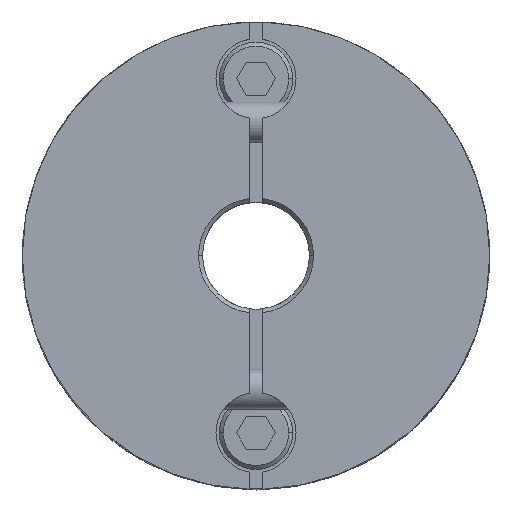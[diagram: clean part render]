
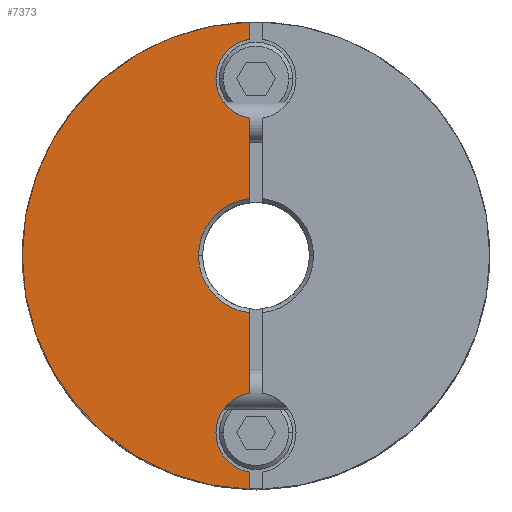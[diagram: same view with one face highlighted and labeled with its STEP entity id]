
A CAD part, top view. The second image highlights one B-rep face of the part: STEP entity #7373.
In plain terms, the highlighted planar face has unit normal (0, 0, 1).
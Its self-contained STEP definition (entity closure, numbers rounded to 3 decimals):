
#751=CARTESIAN_POINT('',(-4.3,0.,13.5));
#752=VERTEX_POINT('',#751);
#759=CARTESIAN_POINT('',(-0.5,-4.271,13.5));
#760=VERTEX_POINT('',#759);
#761=CARTESIAN_POINT('',(0.0,0.,13.5));
#762=DIRECTION('',(0.0,0.0,1.0));
#763=DIRECTION('',(1.0,0.0,0.0));
#764=AXIS2_PLACEMENT_3D('',#761,#762,#763);
#765=CIRCLE('',#764,4.3);
#766=EDGE_CURVE('',#752,#760,#765,.T.);
#831=CARTESIAN_POINT('',(-17.5,0.,13.5));
#832=VERTEX_POINT('',#831);
#916=CARTESIAN_POINT('',(-0.5,-17.493,13.5));
#917=VERTEX_POINT('',#916);
#924=CARTESIAN_POINT('',(0.0,0.,13.5));
#925=DIRECTION('',(0.0,0.0,-1.0));
#926=DIRECTION('',(-1.0,0.0,0.0));
#927=AXIS2_PLACEMENT_3D('',#924,#925,#926);
#928=CIRCLE('',#927,17.5);
#929=EDGE_CURVE('',#917,#832,#928,.T.);
#1353=CARTESIAN_POINT('',(-3.,-13.25,13.5));
#1354=VERTEX_POINT('',#1353);
#1363=CARTESIAN_POINT('',(-0.5,-16.208,13.5));
#1364=VERTEX_POINT('',#1363);
#1365=CARTESIAN_POINT('',(0.,-13.25,13.5));
#1366=DIRECTION('',(0.0,0.0,-1.0));
#1367=DIRECTION('',(-1.0,0.0,0.0));
#1368=AXIS2_PLACEMENT_3D('',#1365,#1366,#1367);
#1369=CIRCLE('',#1368,3.0);
#1370=EDGE_CURVE('',#1364,#1354,#1369,.T.);
#1585=CARTESIAN_POINT('',(-3.,13.25,13.5));
#1586=VERTEX_POINT('',#1585);
#1595=CARTESIAN_POINT('',(-0.5,10.292,13.5));
#1596=VERTEX_POINT('',#1595);
#1597=CARTESIAN_POINT('',(0.,13.25,13.5));
#1598=DIRECTION('',(0.0,0.0,-1.0));
#1599=DIRECTION('',(-1.0,0.0,0.0));
#1600=AXIS2_PLACEMENT_3D('',#1597,#1598,#1599);
#1601=CIRCLE('',#1600,3.0);
#1602=EDGE_CURVE('',#1596,#1586,#1601,.T.);
#6080=CARTESIAN_POINT('',(-0.5,16.208,13.5));
#6081=VERTEX_POINT('',#6080);
#6088=CARTESIAN_POINT('',(0.,13.25,13.5));
#6089=DIRECTION('',(0.0,0.0,-1.0));
#6090=DIRECTION('',(-1.0,0.0,0.0));
#6091=AXIS2_PLACEMENT_3D('',#6088,#6089,#6090);
#6092=CIRCLE('',#6091,3.0);
#6093=EDGE_CURVE('',#1586,#6081,#6092,.T.);
#6495=CARTESIAN_POINT('',(-0.5,-10.292,13.5));
#6496=VERTEX_POINT('',#6495);
#6503=CARTESIAN_POINT('',(0.,-13.25,13.5));
#6504=DIRECTION('',(0.0,0.0,-1.0));
#6505=DIRECTION('',(-1.0,0.0,0.0));
#6506=AXIS2_PLACEMENT_3D('',#6503,#6504,#6505);
#6507=CIRCLE('',#6506,3.0);
#6508=EDGE_CURVE('',#1354,#6496,#6507,.T.);
#6657=CARTESIAN_POINT('',(-0.5,4.271,13.5));
#6658=VERTEX_POINT('',#6657);
#6659=CARTESIAN_POINT('',(-0.5,4.271,13.5));
#6660=DIRECTION('',(0.0,1.0,0.0));
#6661=VECTOR('',#6660,6.021);
#6662=LINE('',#6659,#6661);
#6663=EDGE_CURVE('',#6658,#1596,#6662,.T.);
#6714=CARTESIAN_POINT('',(-0.5,-10.292,13.5));
#6715=DIRECTION('',(0.0,1.0,0.0));
#6716=VECTOR('',#6715,6.021);
#6717=LINE('',#6714,#6716);
#6718=EDGE_CURVE('',#6496,#760,#6717,.T.);
#7319=CARTESIAN_POINT('',(-0.5,-17.493,13.5));
#7320=DIRECTION('',(0.0,1.0,0.0));
#7321=VECTOR('',#7320,1.285);
#7322=LINE('',#7319,#7321);
#7323=EDGE_CURVE('',#917,#1364,#7322,.T.);
#7335=CARTESIAN_POINT('',(-1.591,0.,13.5));
#7336=DIRECTION('',(0.0,0.0,1.0));
#7337=DIRECTION('',(-1.0,0.0,0.0));
#7338=AXIS2_PLACEMENT_3D('',#7335,#7336,#7337);
#7339=PLANE('',#7338);
#7340=ORIENTED_EDGE('',*,*,#1370,.T.);
#7341=ORIENTED_EDGE('',*,*,#6508,.T.);
#7342=ORIENTED_EDGE('',*,*,#6718,.T.);
#7343=ORIENTED_EDGE('',*,*,#766,.F.);
#7344=CARTESIAN_POINT('',(0.0,0.,13.5));
#7345=DIRECTION('',(0.0,0.0,1.0));
#7346=DIRECTION('',(1.0,0.0,0.0));
#7347=AXIS2_PLACEMENT_3D('',#7344,#7345,#7346);
#7348=CIRCLE('',#7347,4.3);
#7349=EDGE_CURVE('',#6658,#752,#7348,.T.);
#7350=ORIENTED_EDGE('',*,*,#7349,.F.);
#7351=ORIENTED_EDGE('',*,*,#6663,.T.);
#7352=ORIENTED_EDGE('',*,*,#1602,.T.);
#7353=ORIENTED_EDGE('',*,*,#6093,.T.);
#7354=CARTESIAN_POINT('',(-0.5,17.493,13.5));
#7355=VERTEX_POINT('',#7354);
#7356=CARTESIAN_POINT('',(-0.5,16.208,13.5));
#7357=DIRECTION('',(0.0,1.0,0.0));
#7358=VECTOR('',#7357,1.285);
#7359=LINE('',#7356,#7358);
#7360=EDGE_CURVE('',#6081,#7355,#7359,.T.);
#7361=ORIENTED_EDGE('',*,*,#7360,.T.);
#7362=CARTESIAN_POINT('',(0.0,0.,13.5));
#7363=DIRECTION('',(0.0,0.0,-1.0));
#7364=DIRECTION('',(-1.0,0.0,0.0));
#7365=AXIS2_PLACEMENT_3D('',#7362,#7363,#7364);
#7366=CIRCLE('',#7365,17.5);
#7367=EDGE_CURVE('',#832,#7355,#7366,.T.);
#7368=ORIENTED_EDGE('',*,*,#7367,.F.);
#7369=ORIENTED_EDGE('',*,*,#929,.F.);
#7370=ORIENTED_EDGE('',*,*,#7323,.T.);
#7371=EDGE_LOOP('',(#7340,#7341,#7342,#7343,#7350,#7351,#7352,#7353,#7361,#7368,#7369,#7370));
#7372=FACE_OUTER_BOUND('',#7371,.T.);
#7373=ADVANCED_FACE('',(#7372),#7339,.T.);
